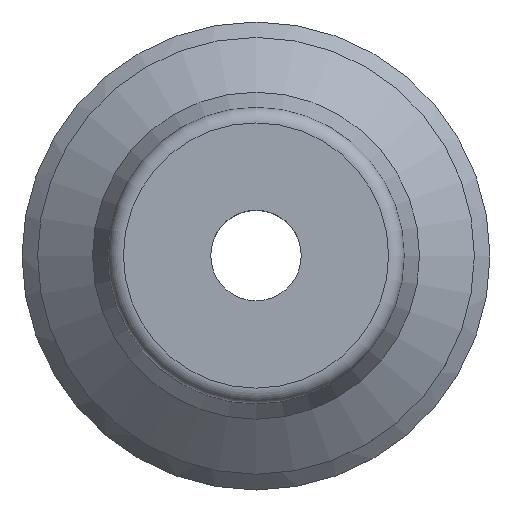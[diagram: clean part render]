
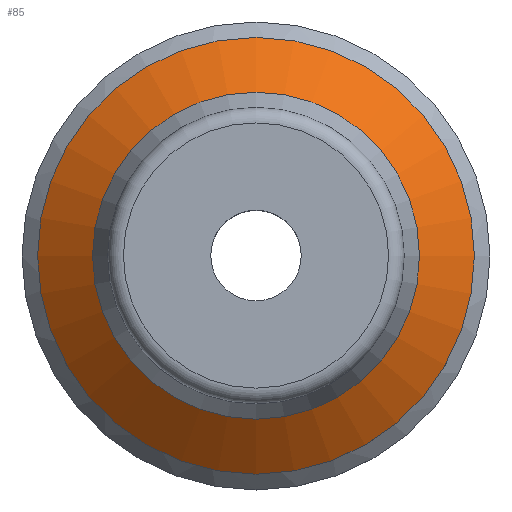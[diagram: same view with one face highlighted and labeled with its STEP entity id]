
A CAD part, top view. The second image highlights one B-rep face of the part: STEP entity #85.
In plain terms, the highlighted conical face has half-angle 51.113 degrees and reference radius 14 mm.
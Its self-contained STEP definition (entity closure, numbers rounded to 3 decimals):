
#85=ADVANCED_FACE('',(#128,#129),#130,.T.);
#128=FACE_BOUND('',#195,.T.);
#129=FACE_OUTER_BOUND('',#196,.T.);
#130=CONICAL_SURFACE('',#197,14.0,0.892);
#195=EDGE_LOOP('',(#282));
#196=EDGE_LOOP('',(#283));
#197=AXIS2_PLACEMENT_3D('',#284,#285,#286);
#282=ORIENTED_EDGE('',*,*,#354,.T.);
#283=ORIENTED_EDGE('',*,*,#353,.F.);
#284=CARTESIAN_POINT('',(0.0,0.0,7.863));
#285=DIRECTION('',(0.0,0.,-1.0));
#286=DIRECTION('',(0.0,1.0,0.));
#353=EDGE_CURVE('',#386,#386,#387,.T.);
#354=EDGE_CURVE('',#388,#388,#389,.T.);
#386=VERTEX_POINT('',#430);
#387=CIRCLE('',#431,14.0);
#388=VERTEX_POINT('',#432);
#389=CIRCLE('',#433,10.481);
#430=CARTESIAN_POINT('',(14.0,0.0,7.863));
#431=AXIS2_PLACEMENT_3D('',#484,#485,#486);
#432=CARTESIAN_POINT('',(10.481,0.0,10.702));
#433=AXIS2_PLACEMENT_3D('',#487,#488,#489);
#484=CARTESIAN_POINT('',(0.0,0.0,7.863));
#485=DIRECTION('',(0.0,0.,-1.0));
#486=DIRECTION('',(0.0,1.0,0.));
#487=CARTESIAN_POINT('',(0.0,0.0,10.702));
#488=DIRECTION('',(0.0,0.,-1.0));
#489=DIRECTION('',(0.0,1.0,0.));
